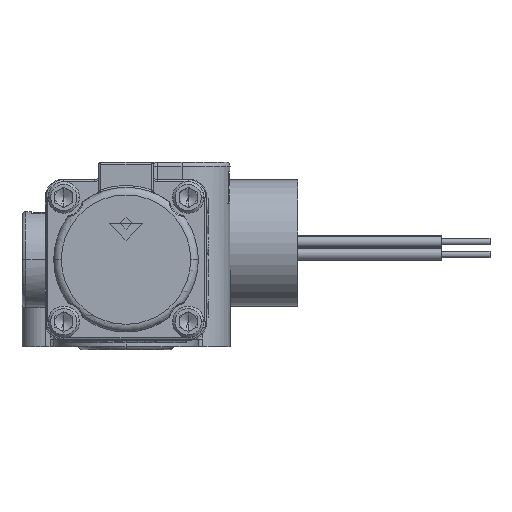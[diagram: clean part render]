
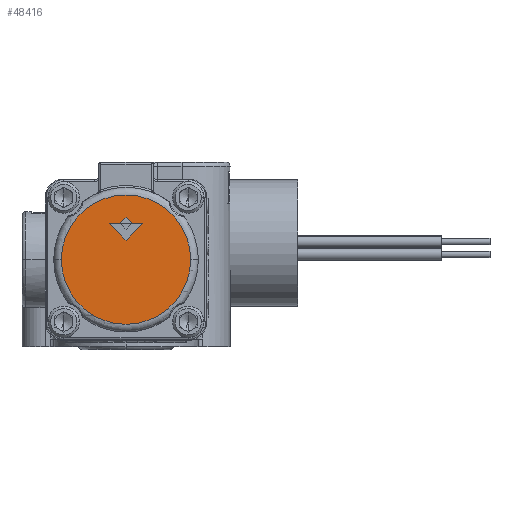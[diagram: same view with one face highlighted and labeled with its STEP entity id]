
A CAD part, left-side view. The second image highlights one B-rep face of the part: STEP entity #48416.
In plain terms, the highlighted planar face has unit normal (-1, 0, 0) as drawn and (0, 0, -1) by its records, which use the part's own axes.
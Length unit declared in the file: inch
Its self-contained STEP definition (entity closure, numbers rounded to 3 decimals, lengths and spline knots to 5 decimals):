
#382 = CARTESIAN_POINT ( 'NONE',  ( -4.52166, 1.03427, -0.11 ) ) ;
#474 = VECTOR ( 'NONE', #37449, 39.37008 ) ;
#3883 = VERTEX_POINT ( 'NONE', #382 ) ;
#4680 = AXIS2_PLACEMENT_3D ( 'NONE', #19332, #65457, #71485 ) ;
#6382 = VERTEX_POINT ( 'NONE', #7566 ) ;
#7243 = ORIENTED_EDGE ( 'NONE', *, *, #9441, .F. ) ;
#7566 = CARTESIAN_POINT ( 'NONE',  ( -3.96666, 1.31677, -0.11 ) ) ;
#8210 = LINE ( 'NONE', #21146, #84913 ) ;
#8302 = VERTEX_POINT ( 'NONE', #16649 ) ;
#9033 = VECTOR ( 'NONE', #42085, 39.37008 ) ;
#9441 = EDGE_CURVE ( 'NONE', #22862, #3883, #50082, .T. ) ;
#9463 = EDGE_CURVE ( 'NONE', #3883, #22862, #55598, .T. ) ;
#10450 = EDGE_CURVE ( 'NONE', #13835, #6382, #52551, .T. ) ;
#11138 = CARTESIAN_POINT ( 'NONE',  ( -2.60171, 2.60171, -0.11 ) ) ;
#13835 = VERTEX_POINT ( 'NONE', #21478 ) ;
#14661 = LINE ( 'NONE', #77516, #18271 ) ;
#16649 = CARTESIAN_POINT ( 'NONE',  ( -4.01666, 1.18677, -0.11 ) ) ;
#18242 = CARTESIAN_POINT ( 'NONE',  ( -4.01666, 1.03427, -0.11 ) ) ;
#18271 = VECTOR ( 'NONE', #50405, 39.37008 ) ;
#18911 = CARTESIAN_POINT ( 'NONE',  ( -4.01666, 1.03427, -0.11 ) ) ;
#19332 = CARTESIAN_POINT ( 'NONE',  ( -4.01666, 1.03427, -0.11 ) ) ;
#21146 = CARTESIAN_POINT ( 'NONE',  ( -2.69171, 2.69171, -0.11 ) ) ;
#21209 = VECTOR ( 'NONE', #63044, 39.37008 ) ;
#21478 = CARTESIAN_POINT ( 'NONE',  ( -3.88666, 1.31677, -0.11 ) ) ;
#22002 = EDGE_CURVE ( 'NONE', #59781, #8302, #68855, .T. ) ;
#22862 = VERTEX_POINT ( 'NONE', #66020 ) ;
#23626 = EDGE_CURVE ( 'NONE', #42361, #55115, #8210, .T. ) ;
#24028 = DIRECTION ( 'NONE',  ( 0.707, -0.707, 0. ) ) ;
#25242 = VECTOR ( 'NONE', #24028, 39.37008 ) ;
#27486 = DIRECTION ( 'NONE',  ( 0., 0., 1. ) ) ;
#28691 = LINE ( 'NONE', #81242, #9033 ) ;
#30985 = CARTESIAN_POINT ( 'NONE',  ( -4.06666, 1.31677, -0.11 ) ) ;
#32415 = ORIENTED_EDGE ( 'NONE', *, *, #10450, .T. ) ;
#32985 = EDGE_CURVE ( 'NONE', #6382, #42361, #14661, .T. ) ;
#37449 = DIRECTION ( 'NONE',  ( 0.707, 0.707, 0. ) ) ;
#37657 = DIRECTION ( 'NONE',  ( 1., 0., 0. ) ) ;
#42085 = DIRECTION ( 'NONE',  ( -1., 0., 0. ) ) ;
#42361 = VERTEX_POINT ( 'NONE', #47538 ) ;
#45425 = ORIENTED_EDGE ( 'NONE', *, *, #9463, .F. ) ;
#47526 = ORIENTED_EDGE ( 'NONE', *, *, #23626, .T. ) ;
#47538 = CARTESIAN_POINT ( 'NONE',  ( -4.01666, 1.36677, -0.11 ) ) ;
#48047 = EDGE_LOOP ( 'NONE', ( #7243, #45425 ) ) ;
#48416 = ADVANCED_FACE ( 'NONE', ( #57462, #83712 ), #57049, .F. ) ;
#49133 = DIRECTION ( 'NONE',  ( -0.707, -0.707, 0. ) ) ;
#50082 = CIRCLE ( 'NONE', #74842, 0.505 ) ;
#50326 = CARTESIAN_POINT ( 'NONE',  ( -1.41495, -1.41495, -0.11 ) ) ;
#50405 = DIRECTION ( 'NONE',  ( -0.707, 0.707, 0. ) ) ;
#50802 = LINE ( 'NONE', #11138, #474 ) ;
#52551 = LINE ( 'NONE', #69518, #21209 ) ;
#53370 = CARTESIAN_POINT ( 'NONE',  ( -4.14666, 1.31677, -0.11 ) ) ;
#55093 = EDGE_CURVE ( 'NONE', #8302, #13835, #50802, .T. ) ;
#55115 = VERTEX_POINT ( 'NONE', #30985 ) ;
#55598 = CIRCLE ( 'NONE', #4680, 0.505 ) ;
#56594 = DIRECTION ( 'NONE',  ( 0., 0., 1. ) ) ;
#57049 = PLANE ( 'NONE',  #71954 ) ;
#57462 = FACE_OUTER_BOUND ( 'NONE', #48047, .T. ) ;
#58677 = EDGE_LOOP ( 'NONE', ( #47526, #82237, #62605, #71200, #32415, #73973 ) ) ;
#59781 = VERTEX_POINT ( 'NONE', #53370 ) ;
#62605 = ORIENTED_EDGE ( 'NONE', *, *, #22002, .T. ) ;
#63044 = DIRECTION ( 'NONE',  ( -1., 0., 0. ) ) ;
#65457 = DIRECTION ( 'NONE',  ( 0., 0., 1. ) ) ;
#66020 = CARTESIAN_POINT ( 'NONE',  ( -3.51166, 1.03427, -0.11 ) ) ;
#68855 = LINE ( 'NONE', #50326, #25242 ) ;
#69518 = CARTESIAN_POINT ( 'NONE',  ( 0., 1.31677, -0.11 ) ) ;
#71200 = ORIENTED_EDGE ( 'NONE', *, *, #55093, .T. ) ;
#71485 = DIRECTION ( 'NONE',  ( 1., 0., 0. ) ) ;
#71954 = AXIS2_PLACEMENT_3D ( 'NONE', #18242, #56594, #37657 ) ;
#73973 = ORIENTED_EDGE ( 'NONE', *, *, #32985, .T. ) ;
#74842 = AXIS2_PLACEMENT_3D ( 'NONE', #18911, #27486, #77930 ) ;
#77516 = CARTESIAN_POINT ( 'NONE',  ( -1.32495, -1.32495, -0.11 ) ) ;
#77930 = DIRECTION ( 'NONE',  ( 1., 0., 0. ) ) ;
#80348 = EDGE_CURVE ( 'NONE', #55115, #59781, #28691, .T. ) ;
#81242 = CARTESIAN_POINT ( 'NONE',  ( 0., 1.31677, -0.11 ) ) ;
#82237 = ORIENTED_EDGE ( 'NONE', *, *, #80348, .T. ) ;
#83712 = FACE_BOUND ( 'NONE', #58677, .T. ) ;
#84913 = VECTOR ( 'NONE', #49133, 39.37008 ) ;
